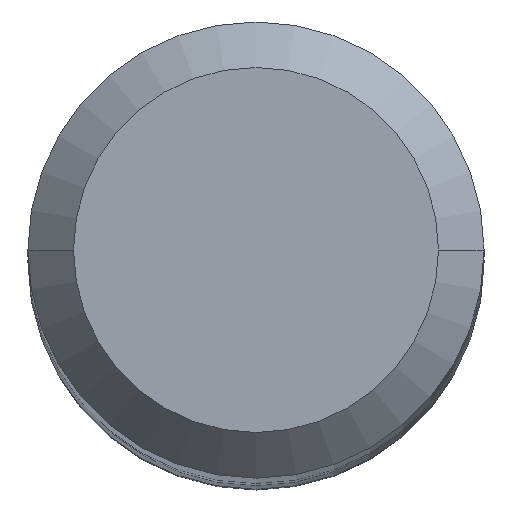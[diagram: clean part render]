
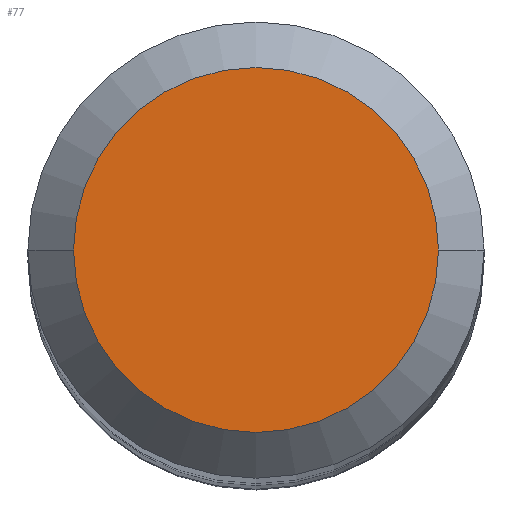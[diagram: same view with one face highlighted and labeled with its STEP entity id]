
A CAD part, top view. The second image highlights one B-rep face of the part: STEP entity #77.
In plain terms, the highlighted planar face has unit normal (0, 0, 1).
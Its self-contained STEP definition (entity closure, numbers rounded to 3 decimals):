
#34 = ORIENTED_EDGE ( 'NONE', *, *, #120, .F. ) ;
#51 = CARTESIAN_POINT ( 'NONE',  ( 0., 2.4, 0. ) ) ;
#77 = ADVANCED_FACE ( 'NONE', ( #529 ), #225, .T. ) ;
#90 = CIRCLE ( 'NONE', #400, 2.4 ) ;
#112 = DIRECTION ( 'NONE',  ( -1., 0., 0. ) ) ;
#120 = EDGE_CURVE ( 'NONE', #150, #521, #562, .T. ) ;
#147 = CARTESIAN_POINT ( 'NONE',  ( -2.4, 0., 0. ) ) ;
#150 = VERTEX_POINT ( 'NONE', #147 ) ;
#151 = DIRECTION ( 'NONE',  ( 0., 0., -1. ) ) ;
#158 = CARTESIAN_POINT ( 'NONE',  ( 2.4, 0., 0. ) ) ;
#182 = DIRECTION ( 'NONE',  ( 0., 0., -1. ) ) ;
#225 = PLANE ( 'NONE',  #389 ) ;
#236 = DIRECTION ( 'NONE',  ( -1., 0., 0. ) ) ;
#286 = CARTESIAN_POINT ( 'NONE',  ( 0., 0., 0. ) ) ;
#355 = AXIS2_PLACEMENT_3D ( 'NONE', #286, #182, #236 ) ;
#361 = EDGE_LOOP ( 'NONE', ( #34, #571 ) ) ;
#377 = DIRECTION ( 'NONE',  ( 1., 0., 0. ) ) ;
#386 = DIRECTION ( 'NONE',  ( 0., 0., 1. ) ) ;
#389 = AXIS2_PLACEMENT_3D ( 'NONE', #51, #386, #377 ) ;
#396 = CARTESIAN_POINT ( 'NONE',  ( 0., 0., 0. ) ) ;
#400 = AXIS2_PLACEMENT_3D ( 'NONE', #396, #151, #112 ) ;
#521 = VERTEX_POINT ( 'NONE', #158 ) ;
#529 = FACE_OUTER_BOUND ( 'NONE', #361, .T. ) ;
#562 = CIRCLE ( 'NONE', #355, 2.4 ) ;
#564 = EDGE_CURVE ( 'NONE', #521, #150, #90, .T. ) ;
#571 = ORIENTED_EDGE ( 'NONE', *, *, #564, .F. ) ;
